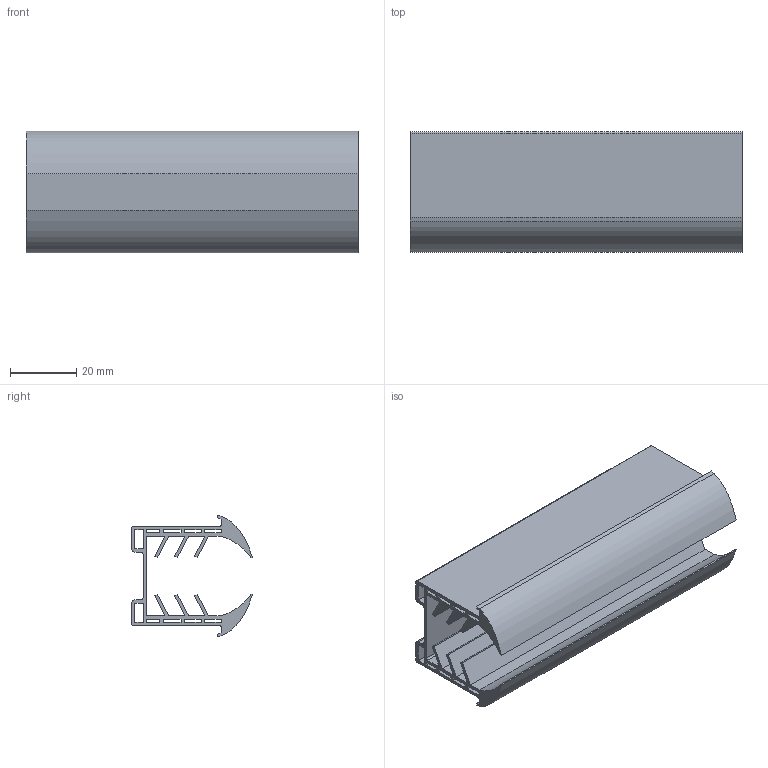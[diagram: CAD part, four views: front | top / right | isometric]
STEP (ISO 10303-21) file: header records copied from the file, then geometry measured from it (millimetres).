
FILE_DESCRIPTION (( 'STEP AP203' ), '1' );
FILE_NAME ('3D_GN6009_30x27_12-13_188461630.STEP', '2024-09-23T09:25:03', ( '' ), ( '' ), 'SwSTEP 2.0', 'SolidWorks 2024', '' );
FILE_SCHEMA (( 'CONFIG_CONTROL_DESIGN' ));
Length unit declared in the file: millimetre
Products named in the file (1): 3D_GN6009_30x27_12-13_188461630
Bounding box: 100 x 36.4 x 36.56 mm (x, y, z)
Volume: 28013.1 mm3; surface area: 44032.9 mm2
Topology: 1 solids, 1 shells, 100 faces, 294 edges, 196 vertices
Faces by surface type: plane 86, cylinder 10, bspline 4
Entity records: 3403 total; most frequent: CARTESIAN_POINT 627, ORIENTED_EDGE 588, DIRECTION 500, EDGE_CURVE 294, LINE 266, VECTOR 266, VERTEX_POINT 196, EDGE_LOOP 120
